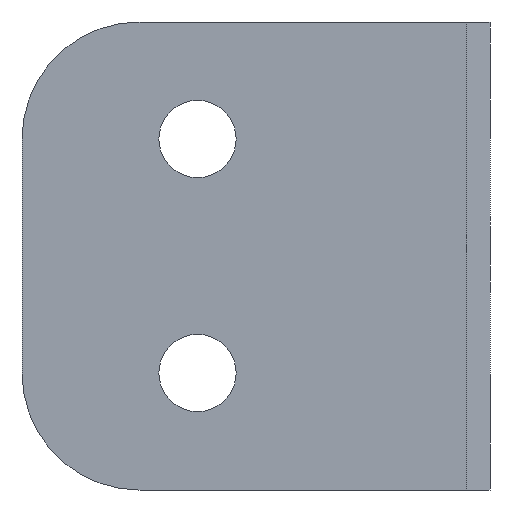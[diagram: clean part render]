
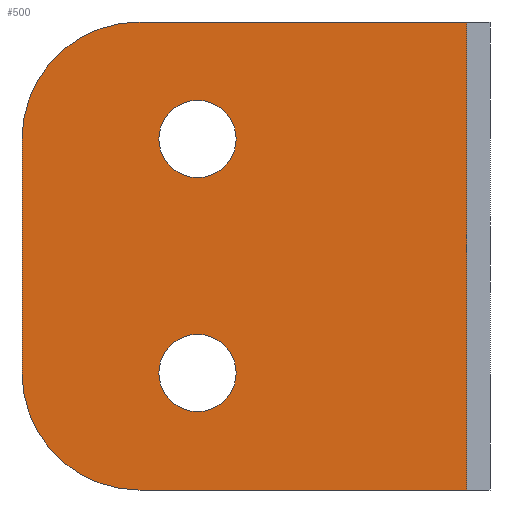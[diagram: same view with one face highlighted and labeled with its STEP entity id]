
A CAD part, front view. The second image highlights one B-rep face of the part: STEP entity #500.
In plain terms, the highlighted planar face has unit normal (0, -1, 0).
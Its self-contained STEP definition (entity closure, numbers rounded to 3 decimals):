
#7 = CIRCLE ( 'NONE', #293, 3.3 ) ;
#20 = DIRECTION ( 'NONE',  ( 0., -1., 0. ) ) ;
#25 = AXIS2_PLACEMENT_3D ( 'NONE', #318, #764, #457 ) ;
#32 = CARTESIAN_POINT ( 'NONE',  ( -25., 0., 13.3 ) ) ;
#35 = CIRCLE ( 'NONE', #197, 10. ) ;
#41 = VECTOR ( 'NONE', #274, 1000. ) ;
#54 = DIRECTION ( 'NONE',  ( 0., 0., 1. ) ) ;
#75 = CARTESIAN_POINT ( 'NONE',  ( -2., 0., 20. ) ) ;
#82 = CARTESIAN_POINT ( 'NONE',  ( -25., 0., 6.7 ) ) ;
#83 = CARTESIAN_POINT ( 'NONE',  ( -25., 0., -13.3 ) ) ;
#84 = VERTEX_POINT ( 'NONE', #32 ) ;
#85 = CARTESIAN_POINT ( 'NONE',  ( -30., 0., 20. ) ) ;
#90 = ORIENTED_EDGE ( 'NONE', *, *, #496, .T. ) ;
#99 = CARTESIAN_POINT ( 'NONE',  ( -2., 0., 20. ) ) ;
#105 = ORIENTED_EDGE ( 'NONE', *, *, #899, .T. ) ;
#108 = FACE_BOUND ( 'NONE', #480, .T. ) ;
#115 = AXIS2_PLACEMENT_3D ( 'NONE', #179, #20, #152 ) ;
#122 = CARTESIAN_POINT ( 'NONE',  ( -25., 0., 10. ) ) ;
#139 = DIRECTION ( 'NONE',  ( -1., 0., 0. ) ) ;
#152 = DIRECTION ( 'NONE',  ( -1., 0., 0. ) ) ;
#164 = VERTEX_POINT ( 'NONE', #83 ) ;
#171 = CIRCLE ( 'NONE', #115, 10. ) ;
#173 = DIRECTION ( 'NONE',  ( 0., 1., 0. ) ) ;
#179 = CARTESIAN_POINT ( 'NONE',  ( -30., 0., -10. ) ) ;
#181 = CARTESIAN_POINT ( 'NONE',  ( -30., 0., 10. ) ) ;
#184 = VERTEX_POINT ( 'NONE', #380 ) ;
#188 = VERTEX_POINT ( 'NONE', #99 ) ;
#197 = AXIS2_PLACEMENT_3D ( 'NONE', #181, #264, #139 ) ;
#203 = CIRCLE ( 'NONE', #386, 3.3 ) ;
#208 = ORIENTED_EDGE ( 'NONE', *, *, #428, .T. ) ;
#219 = DIRECTION ( 'NONE',  ( 1., 0., 0. ) ) ;
#225 = CARTESIAN_POINT ( 'NONE',  ( -2., 0., -20. ) ) ;
#229 = DIRECTION ( 'NONE',  ( 0., 1., 0. ) ) ;
#235 = VECTOR ( 'NONE', #219, 1000. ) ;
#250 = DIRECTION ( 'NONE',  ( 0., 0., 1. ) ) ;
#251 = FACE_OUTER_BOUND ( 'NONE', #382, .T. ) ;
#257 = VERTEX_POINT ( 'NONE', #85 ) ;
#264 = DIRECTION ( 'NONE',  ( 0., -1., 0. ) ) ;
#266 = VERTEX_POINT ( 'NONE', #82 ) ;
#273 = LINE ( 'NONE', #392, #649 ) ;
#274 = DIRECTION ( 'NONE',  ( 1., 0., 0. ) ) ;
#278 = EDGE_CURVE ( 'NONE', #266, #84, #932, .T. ) ;
#293 = AXIS2_PLACEMENT_3D ( 'NONE', #651, #487, #250 ) ;
#303 = EDGE_CURVE ( 'NONE', #184, #482, #171, .T. ) ;
#318 = CARTESIAN_POINT ( 'NONE',  ( -25., 0., 10. ) ) ;
#319 = VERTEX_POINT ( 'NONE', #542 ) ;
#380 = CARTESIAN_POINT ( 'NONE',  ( -40., 0., -10. ) ) ;
#382 = EDGE_LOOP ( 'NONE', ( #412, #414, #421, #692, #208, #610 ) ) ;
#384 = LINE ( 'NONE', #907, #235 ) ;
#386 = AXIS2_PLACEMENT_3D ( 'NONE', #122, #871, #54 ) ;
#388 = DIRECTION ( 'NONE',  ( 0., 0., -1. ) ) ;
#392 = CARTESIAN_POINT ( 'NONE',  ( -40., 0., 20. ) ) ;
#398 = VERTEX_POINT ( 'NONE', #914 ) ;
#412 = ORIENTED_EDGE ( 'NONE', *, *, #602, .T. ) ;
#414 = ORIENTED_EDGE ( 'NONE', *, *, #856, .T. ) ;
#421 = ORIENTED_EDGE ( 'NONE', *, *, #668, .F. ) ;
#428 = EDGE_CURVE ( 'NONE', #398, #184, #273, .T. ) ;
#457 = DIRECTION ( 'NONE',  ( 0., 0., 1. ) ) ;
#475 = CARTESIAN_POINT ( 'NONE',  ( -25., 0., -10. ) ) ;
#480 = EDGE_LOOP ( 'NONE', ( #568, #910 ) ) ;
#482 = VERTEX_POINT ( 'NONE', #601 ) ;
#487 = DIRECTION ( 'NONE',  ( 0., 1., 0. ) ) ;
#496 = EDGE_CURVE ( 'NONE', #319, #164, #7, .T. ) ;
#500 = ADVANCED_FACE ( 'NONE', ( #524, #108, #251 ), #691, .F. ) ;
#522 = CARTESIAN_POINT ( 'NONE',  ( 0., 0., -20. ) ) ;
#524 = FACE_BOUND ( 'NONE', #845, .T. ) ;
#542 = CARTESIAN_POINT ( 'NONE',  ( -25., 0., -6.7 ) ) ;
#568 = ORIENTED_EDGE ( 'NONE', *, *, #785, .T. ) ;
#601 = CARTESIAN_POINT ( 'NONE',  ( -30., 0., -20. ) ) ;
#602 = EDGE_CURVE ( 'NONE', #482, #654, #645, .T. ) ;
#610 = ORIENTED_EDGE ( 'NONE', *, *, #303, .T. ) ;
#645 = LINE ( 'NONE', #522, #41 ) ;
#649 = VECTOR ( 'NONE', #388, 1000. ) ;
#651 = CARTESIAN_POINT ( 'NONE',  ( -25., 0., -10. ) ) ;
#654 = VERTEX_POINT ( 'NONE', #225 ) ;
#668 = EDGE_CURVE ( 'NONE', #257, #188, #384, .T. ) ;
#684 = DIRECTION ( 'NONE',  ( -1., 0., 0. ) ) ;
#685 = VECTOR ( 'NONE', #728, 1000. ) ;
#691 = PLANE ( 'NONE',  #722 ) ;
#692 = ORIENTED_EDGE ( 'NONE', *, *, #813, .T. ) ;
#722 = AXIS2_PLACEMENT_3D ( 'NONE', #776, #173, #684 ) ;
#728 = DIRECTION ( 'NONE',  ( 0., 0., 1. ) ) ;
#764 = DIRECTION ( 'NONE',  ( 0., 1., 0. ) ) ;
#776 = CARTESIAN_POINT ( 'NONE',  ( 0., 0., 20. ) ) ;
#785 = EDGE_CURVE ( 'NONE', #84, #266, #203, .T. ) ;
#813 = EDGE_CURVE ( 'NONE', #257, #398, #35, .T. ) ;
#816 = DIRECTION ( 'NONE',  ( 0., 0., 1. ) ) ;
#832 = AXIS2_PLACEMENT_3D ( 'NONE', #475, #229, #816 ) ;
#845 = EDGE_LOOP ( 'NONE', ( #90, #105 ) ) ;
#856 = EDGE_CURVE ( 'NONE', #654, #188, #874, .T. ) ;
#858 = CIRCLE ( 'NONE', #832, 3.3 ) ;
#871 = DIRECTION ( 'NONE',  ( 0., 1., 0. ) ) ;
#874 = LINE ( 'NONE', #75, #685 ) ;
#899 = EDGE_CURVE ( 'NONE', #164, #319, #858, .T. ) ;
#907 = CARTESIAN_POINT ( 'NONE',  ( 0., 0., 20. ) ) ;
#910 = ORIENTED_EDGE ( 'NONE', *, *, #278, .T. ) ;
#914 = CARTESIAN_POINT ( 'NONE',  ( -40., 0., 10. ) ) ;
#932 = CIRCLE ( 'NONE', #25, 3.3 ) ;
